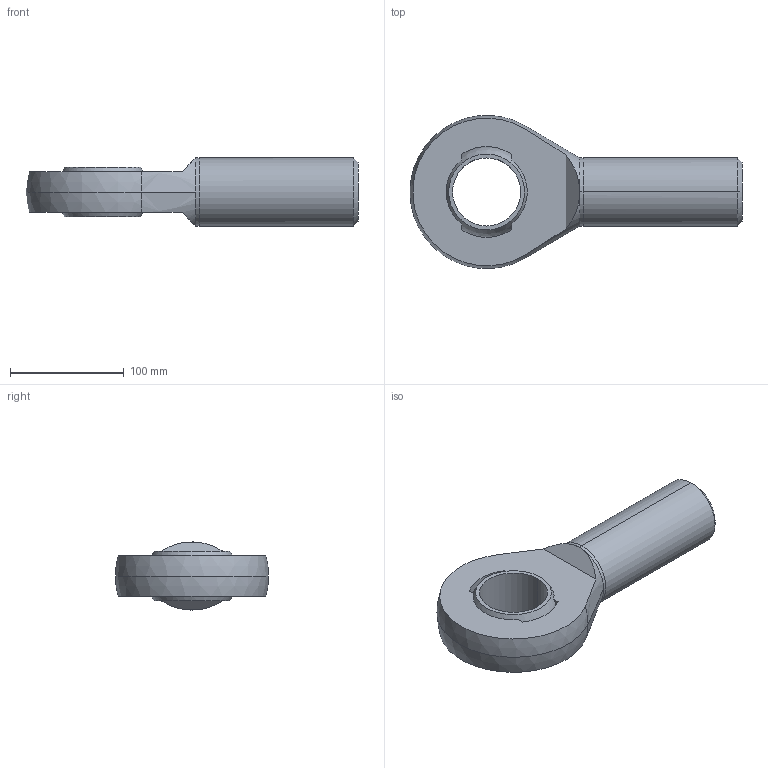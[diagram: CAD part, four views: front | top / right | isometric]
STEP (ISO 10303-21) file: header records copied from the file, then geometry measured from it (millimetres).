
FILE_DESCRIPTION (( 'STEP AP203' ), '1' );
FILE_NAME ('65860.W0560.step', '2014-02-06T11:42:49', ( 'User' ), ( '' ), 'SwSTEP 2.0', 'SolidWorks 2009', '' );
FILE_SCHEMA (( 'CONFIG_CONTROL_DESIGN' ));
Length unit declared in the file: millimetre
Products named in the file (3): Part2_65860.W0560; Part1_65860.W0560; 65860.W0560
Assembly tree (2 placements, depth 2):
  65860.W0560
    Part2_65860.W0560
    Part1_65860.W0560
Bounding box: 292.5 x 134.85 x 60 mm (x, y, z)
Volume: 866066.9 mm3; surface area: 94798.4 mm2
Topology: 2 solids, 2 shells, 35 faces, 82 edges, 51 vertices
Faces by surface type: plane 15, cylinder 8, sphere 8, cone 4
Entity records: 1397 total; most frequent: CARTESIAN_POINT 271, DIRECTION 196, ORIENTED_EDGE 160, AXIS2_PLACEMENT_3D 84, EDGE_CURVE 80, VERTEX_POINT 51, CIRCLE 44, EDGE_LOOP 41
